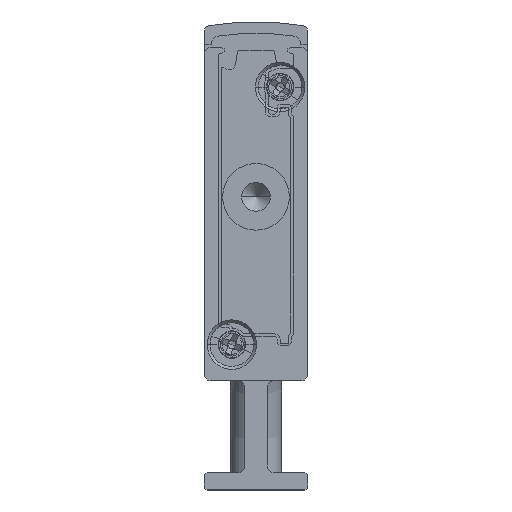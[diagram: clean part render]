
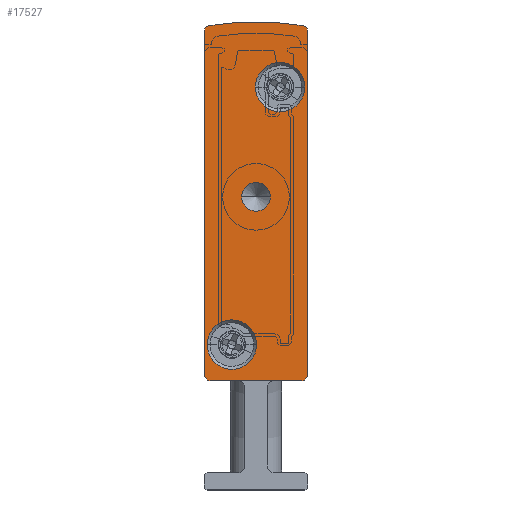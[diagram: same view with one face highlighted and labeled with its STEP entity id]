
A CAD part, front view. The second image highlights one B-rep face of the part: STEP entity #17527.
In plain terms, the highlighted planar face has unit normal (0, -1, 0).
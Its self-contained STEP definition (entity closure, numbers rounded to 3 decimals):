
#3 = CARTESIAN_POINT ( 'NONE',  ( 0.408, -2.5, 40.393 ) ) ;
#78 = DIRECTION ( 'NONE',  ( 1., 0., 0. ) ) ;
#323 = CARTESIAN_POINT ( 'NONE',  ( 0.5, -2.5, 39.902 ) ) ;
#775 = CIRCLE ( 'NONE', #4614, 2.15 ) ;
#803 = CARTESIAN_POINT ( 'NONE',  ( 6.6, -2.5, 35.05 ) ) ;
#1014 = CARTESIAN_POINT ( 'NONE',  ( 9., -2.5, 39.902 ) ) ;
#1026 = VERTEX_POINT ( 'NONE', #17341 ) ;
#1077 = DIRECTION ( 'NONE',  ( -1., 0., 0. ) ) ;
#1331 = ORIENTED_EDGE ( 'NONE', *, *, #19603, .F. ) ;
#1383 = VECTOR ( 'NONE', #17801, 1000. ) ;
#1576 = ORIENTED_EDGE ( 'NONE', *, *, #4463, .F. ) ;
#1648 = EDGE_LOOP ( 'NONE', ( #12660, #10534 ) ) ;
#1676 = EDGE_CURVE ( 'NONE', #10252, #18666, #2961, .T. ) ;
#1824 = DIRECTION ( 'NONE',  ( 1., 0., 0. ) ) ;
#1880 = AXIS2_PLACEMENT_3D ( 'NONE', #5962, #9059, #78 ) ;
#1912 = DIRECTION ( 'NONE',  ( -1., 0., 0. ) ) ;
#1977 = AXIS2_PLACEMENT_3D ( 'NONE', #9422, #10926, #1824 ) ;
#2017 = PLANE ( 'NONE',  #13459 ) ;
#2087 = CARTESIAN_POINT ( 'NONE',  ( 9., -2.5, 39.902 ) ) ;
#2131 = EDGE_CURVE ( 'NONE', #1026, #6061, #775, .T. ) ;
#2524 = CIRCLE ( 'NONE', #14207, 0.5 ) ;
#2587 = VERTEX_POINT ( 'NONE', #2087 ) ;
#2807 = ORIENTED_EDGE ( 'NONE', *, *, #13807, .F. ) ;
#2961 = CIRCLE ( 'NONE', #8860, 0.5 ) ;
#3029 = CIRCLE ( 'NONE', #11146, 1.25 ) ;
#3144 = FACE_BOUND ( 'NONE', #10566, .T. ) ;
#3168 = CARTESIAN_POINT ( 'NONE',  ( 9., -2.5, 10. ) ) ;
#3303 = EDGE_LOOP ( 'NONE', ( #12598, #18275 ) ) ;
#3542 = AXIS2_PLACEMENT_3D ( 'NONE', #15128, #7655, #19681 ) ;
#3671 = CARTESIAN_POINT ( 'NONE',  ( 0.5, -2.5, 39.902 ) ) ;
#3871 = DIRECTION ( 'NONE',  ( 0., 1., 0. ) ) ;
#3887 = EDGE_CURVE ( 'NONE', #15385, #18315, #17245, .T. ) ;
#3946 = VERTEX_POINT ( 'NONE', #10461 ) ;
#4003 = CIRCLE ( 'NONE', #3542, 23.658 ) ;
#4092 = DIRECTION ( 'NONE',  ( 0., 1., 0. ) ) ;
#4154 = DIRECTION ( 'NONE',  ( -1., 0., 0. ) ) ;
#4295 = CARTESIAN_POINT ( 'NONE',  ( 0., -2.5, 39.902 ) ) ;
#4463 = EDGE_CURVE ( 'NONE', #7932, #10064, #14869, .T. ) ;
#4614 = AXIS2_PLACEMENT_3D ( 'NONE', #803, #11421, #5099 ) ;
#4982 = DIRECTION ( 'NONE',  ( 0., 1., 0. ) ) ;
#5099 = DIRECTION ( 'NONE',  ( 1., 0., 0. ) ) ;
#5221 = ORIENTED_EDGE ( 'NONE', *, *, #3887, .F. ) ;
#5524 = ORIENTED_EDGE ( 'NONE', *, *, #15585, .F. ) ;
#5574 = CARTESIAN_POINT ( 'NONE',  ( 0.5, -2.5, 9.5 ) ) ;
#5962 = CARTESIAN_POINT ( 'NONE',  ( 6.6, -2.5, 35.05 ) ) ;
#6055 = ORIENTED_EDGE ( 'NONE', *, *, #8865, .F. ) ;
#6061 = VERTEX_POINT ( 'NONE', #11606 ) ;
#6261 = VECTOR ( 'NONE', #14554, 1000. ) ;
#7191 = CARTESIAN_POINT ( 'NONE',  ( 3.25, -2.5, 25.5 ) ) ;
#7388 = EDGE_CURVE ( 'NONE', #19425, #19355, #3029, .T. ) ;
#7398 = FACE_OUTER_BOUND ( 'NONE', #17916, .T. ) ;
#7655 = DIRECTION ( 'NONE',  ( 0., 1., 0. ) ) ;
#7932 = VERTEX_POINT ( 'NONE', #9365 ) ;
#8077 = ORIENTED_EDGE ( 'NONE', *, *, #13011, .F. ) ;
#8208 = DIRECTION ( 'NONE',  ( -1., 0., 0. ) ) ;
#8538 = ORIENTED_EDGE ( 'NONE', *, *, #1676, .F. ) ;
#8775 = AXIS2_PLACEMENT_3D ( 'NONE', #323, #15404, #1912 ) ;
#8860 = AXIS2_PLACEMENT_3D ( 'NONE', #12609, #4982, #8208 ) ;
#8865 = EDGE_CURVE ( 'NONE', #18315, #15385, #18104, .T. ) ;
#9059 = DIRECTION ( 'NONE',  ( 0., -1., 0. ) ) ;
#9074 = DIRECTION ( 'NONE',  ( -1., 0., 0. ) ) ;
#9144 = CARTESIAN_POINT ( 'NONE',  ( 2.4, -2.5, 12.65 ) ) ;
#9253 = VECTOR ( 'NONE', #1077, 1000. ) ;
#9332 = AXIS2_PLACEMENT_3D ( 'NONE', #18457, #12901, #17463 ) ;
#9365 = CARTESIAN_POINT ( 'NONE',  ( 0., -2.5, 10. ) ) ;
#9418 = ORIENTED_EDGE ( 'NONE', *, *, #19121, .F. ) ;
#9422 = CARTESIAN_POINT ( 'NONE',  ( 2.4, -2.5, 12.65 ) ) ;
#9804 = CARTESIAN_POINT ( 'NONE',  ( 0.5, -2.5, 10. ) ) ;
#9805 = DIRECTION ( 'NONE',  ( -1., 0., 0. ) ) ;
#10064 = VERTEX_POINT ( 'NONE', #4295 ) ;
#10145 = VERTEX_POINT ( 'NONE', #3 ) ;
#10252 = VERTEX_POINT ( 'NONE', #3168 ) ;
#10461 = CARTESIAN_POINT ( 'NONE',  ( 0.5, -2.5, 9.5 ) ) ;
#10534 = ORIENTED_EDGE ( 'NONE', *, *, #17907, .F. ) ;
#10566 = EDGE_LOOP ( 'NONE', ( #6055, #5221 ) ) ;
#10926 = DIRECTION ( 'NONE',  ( 0., -1., 0. ) ) ;
#11113 = LINE ( 'NONE', #1014, #1383 ) ;
#11146 = AXIS2_PLACEMENT_3D ( 'NONE', #18085, #15193, #9074 ) ;
#11421 = DIRECTION ( 'NONE',  ( 0., -1., 0. ) ) ;
#11465 = CARTESIAN_POINT ( 'NONE',  ( 5.75, -2.5, 25.5 ) ) ;
#11606 = CARTESIAN_POINT ( 'NONE',  ( 4.45, -2.5, 35.05 ) ) ;
#11700 = FACE_BOUND ( 'NONE', #3303, .T. ) ;
#11727 = CARTESIAN_POINT ( 'NONE',  ( 4.5, -2.5, 25.5 ) ) ;
#12078 = AXIS2_PLACEMENT_3D ( 'NONE', #9144, #13591, #12188 ) ;
#12188 = DIRECTION ( 'NONE',  ( 1., 0., 0. ) ) ;
#12598 = ORIENTED_EDGE ( 'NONE', *, *, #7388, .T. ) ;
#12609 = CARTESIAN_POINT ( 'NONE',  ( 8.5, -2.5, 10. ) ) ;
#12660 = ORIENTED_EDGE ( 'NONE', *, *, #2131, .F. ) ;
#12805 = ORIENTED_EDGE ( 'NONE', *, *, #15383, .F. ) ;
#12901 = DIRECTION ( 'NONE',  ( 0., 1., 0. ) ) ;
#12925 = VERTEX_POINT ( 'NONE', #16037 ) ;
#12954 = CARTESIAN_POINT ( 'NONE',  ( 0., -2.5, 39.902 ) ) ;
#13011 = EDGE_CURVE ( 'NONE', #2587, #10252, #11113, .T. ) ;
#13459 = AXIS2_PLACEMENT_3D ( 'NONE', #3671, #17410, #9805 ) ;
#13582 = AXIS2_PLACEMENT_3D ( 'NONE', #11727, #4092, #4154 ) ;
#13591 = DIRECTION ( 'NONE',  ( 0., -1., 0. ) ) ;
#13760 = CIRCLE ( 'NONE', #9332, 0.5 ) ;
#13807 = EDGE_CURVE ( 'NONE', #3946, #7932, #2524, .T. ) ;
#14207 = AXIS2_PLACEMENT_3D ( 'NONE', #9804, #3871, #15905 ) ;
#14415 = CARTESIAN_POINT ( 'NONE',  ( 8.5, -2.5, 9.5 ) ) ;
#14554 = DIRECTION ( 'NONE',  ( 0., 0., 1. ) ) ;
#14869 = LINE ( 'NONE', #12954, #6261 ) ;
#14898 = CARTESIAN_POINT ( 'NONE',  ( 4.55, -2.5, 12.65 ) ) ;
#15128 = CARTESIAN_POINT ( 'NONE',  ( 4.5, -2.5, 17.092 ) ) ;
#15193 = DIRECTION ( 'NONE',  ( 0., 1., 0. ) ) ;
#15383 = EDGE_CURVE ( 'NONE', #12925, #2587, #13760, .T. ) ;
#15385 = VERTEX_POINT ( 'NONE', #18393 ) ;
#15404 = DIRECTION ( 'NONE',  ( 0., 1., 0. ) ) ;
#15585 = EDGE_CURVE ( 'NONE', #18666, #3946, #16384, .T. ) ;
#15905 = DIRECTION ( 'NONE',  ( -1., 0., 0. ) ) ;
#16035 = CIRCLE ( 'NONE', #1880, 2.15 ) ;
#16037 = CARTESIAN_POINT ( 'NONE',  ( 8.592, -2.5, 40.393 ) ) ;
#16384 = LINE ( 'NONE', #5574, #9253 ) ;
#17245 = CIRCLE ( 'NONE', #12078, 2.15 ) ;
#17341 = CARTESIAN_POINT ( 'NONE',  ( 8.75, -2.5, 35.05 ) ) ;
#17367 = CIRCLE ( 'NONE', #13582, 1.25 ) ;
#17410 = DIRECTION ( 'NONE',  ( 0., 1., 0. ) ) ;
#17463 = DIRECTION ( 'NONE',  ( -1., 0., 0. ) ) ;
#17527 = ADVANCED_FACE ( 'NONE', ( #19030, #3144, #7398, #11700 ), #2017, .F. ) ;
#17801 = DIRECTION ( 'NONE',  ( 0., 0., -1. ) ) ;
#17907 = EDGE_CURVE ( 'NONE', #6061, #1026, #16035, .T. ) ;
#17916 = EDGE_LOOP ( 'NONE', ( #9418, #1576, #2807, #5524, #8538, #8077, #12805, #1331 ) ) ;
#18085 = CARTESIAN_POINT ( 'NONE',  ( 4.5, -2.5, 25.5 ) ) ;
#18104 = CIRCLE ( 'NONE', #1977, 2.15 ) ;
#18245 = CIRCLE ( 'NONE', #8775, 0.5 ) ;
#18275 = ORIENTED_EDGE ( 'NONE', *, *, #18776, .T. ) ;
#18315 = VERTEX_POINT ( 'NONE', #14898 ) ;
#18393 = CARTESIAN_POINT ( 'NONE',  ( 0.25, -2.5, 12.65 ) ) ;
#18457 = CARTESIAN_POINT ( 'NONE',  ( 8.5, -2.5, 39.902 ) ) ;
#18666 = VERTEX_POINT ( 'NONE', #14415 ) ;
#18776 = EDGE_CURVE ( 'NONE', #19355, #19425, #17367, .T. ) ;
#19030 = FACE_BOUND ( 'NONE', #1648, .T. ) ;
#19121 = EDGE_CURVE ( 'NONE', #10064, #10145, #18245, .T. ) ;
#19355 = VERTEX_POINT ( 'NONE', #11465 ) ;
#19425 = VERTEX_POINT ( 'NONE', #7191 ) ;
#19603 = EDGE_CURVE ( 'NONE', #10145, #12925, #4003, .T. ) ;
#19681 = DIRECTION ( 'NONE',  ( -1., 0., 0. ) ) ;
